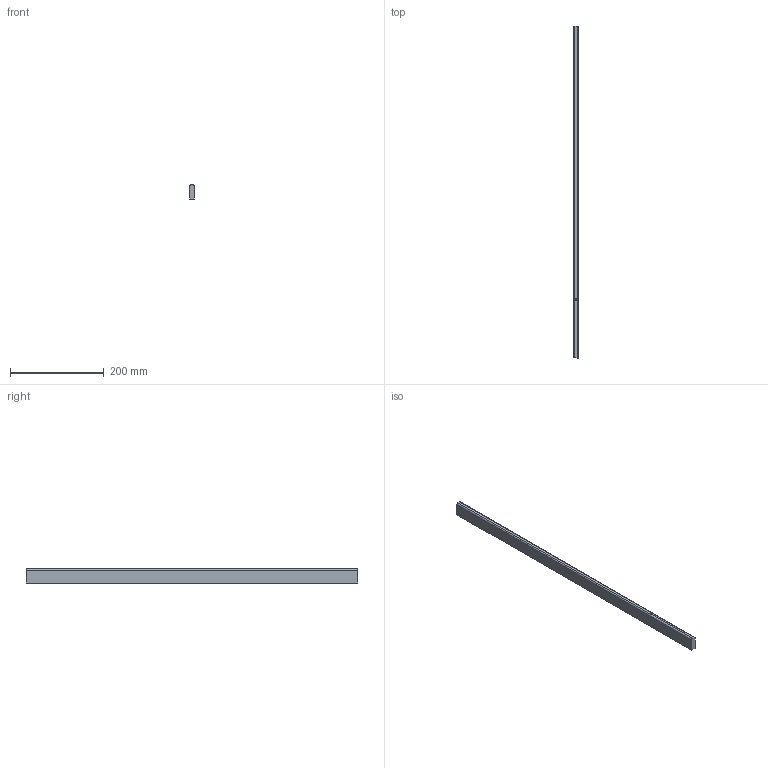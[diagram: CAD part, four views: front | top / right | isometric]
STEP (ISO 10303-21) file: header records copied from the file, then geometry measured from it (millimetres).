
FILE_DESCRIPTION (( 'STEP AP214' ), '1' );
FILE_NAME ('_Seitenreling_SP60702400_RL710.step', '2010-09-06T14:52:13', ( 'grass' ), ( '' ), 'SwSTEP 2.0', 'SolidWorks 2010', '' );
FILE_SCHEMA (( 'AUTOMOTIVE_DESIGN' ));
Length unit declared in the file: millimetre
Products named in the file (1): _Seitenreling_SP60702400_RL710
Bounding box: 10.5 x 710 x 30 mm (x, y, z)
Volume: 219988.4 mm3; surface area: 56842.3 mm2
Topology: 1 solids, 1 shells, 14 faces, 34 edges, 22 vertices
Faces by surface type: plane 8, cylinder 6
Entity records: 454 total; most frequent: DIRECTION 78, CARTESIAN_POINT 71, ORIENTED_EDGE 68, EDGE_CURVE 34, AXIS2_PLACEMENT_3D 29, VERTEX_POINT 22, LINE 20, VECTOR 20
